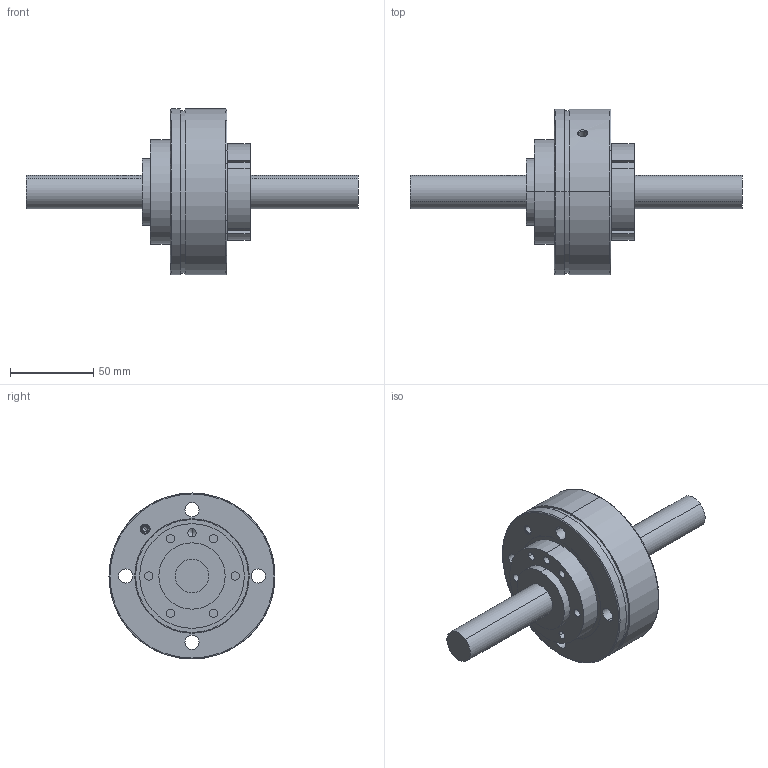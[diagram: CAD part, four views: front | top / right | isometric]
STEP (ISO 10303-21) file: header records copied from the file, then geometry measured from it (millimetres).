
FILE_DESCRIPTION (( 'STEP AP214' ), '1' );
FILE_NAME ('R20-05T4-AME.STEP', '2011-07-22T07:17:04', ( 'test' ), ( '' ), 'SwSTEP 2.0', 'SolidWorks 2010', '' );
FILE_SCHEMA (( 'AUTOMOTIVE_DESIGN' ));
Length unit declared in the file: millimetre
Products named in the file (5): 10002680~0; 10002679~0; 10002682~0; 10002683~0; R20-05T4-AME
Assembly tree (4 placements, depth 2):
  R20-05T4-AME
    10002679~0
    10002683~0
    10002682~0
    10002680~0
Bounding box: 200 x 100 x 100 mm (x, y, z)
Volume: 356167.7 mm3; surface area: 104709.3 mm2
Topology: 18 solids, 18 shells, 239 faces, 599 edges, 371 vertices
Faces by surface type: bspline 126, cylinder 62, plane 49, cone 2
Entity records: 11061 total; most frequent: CARTESIAN_POINT 3300, ORIENTED_EDGE 1130, DIRECTION 1023, EDGE_CURVE 565, AXIS2_PLACEMENT_3D 420, VERTEX_POINT 371, CIRCLE 300, EDGE_LOOP 290
